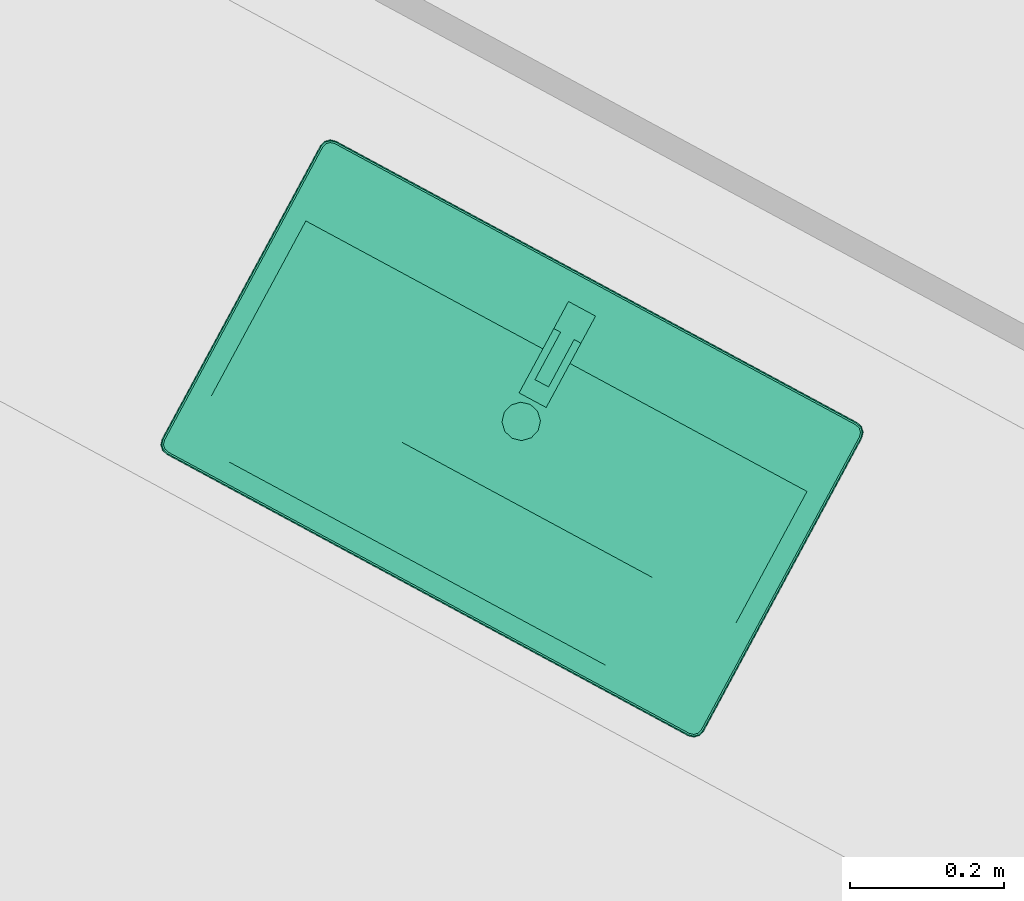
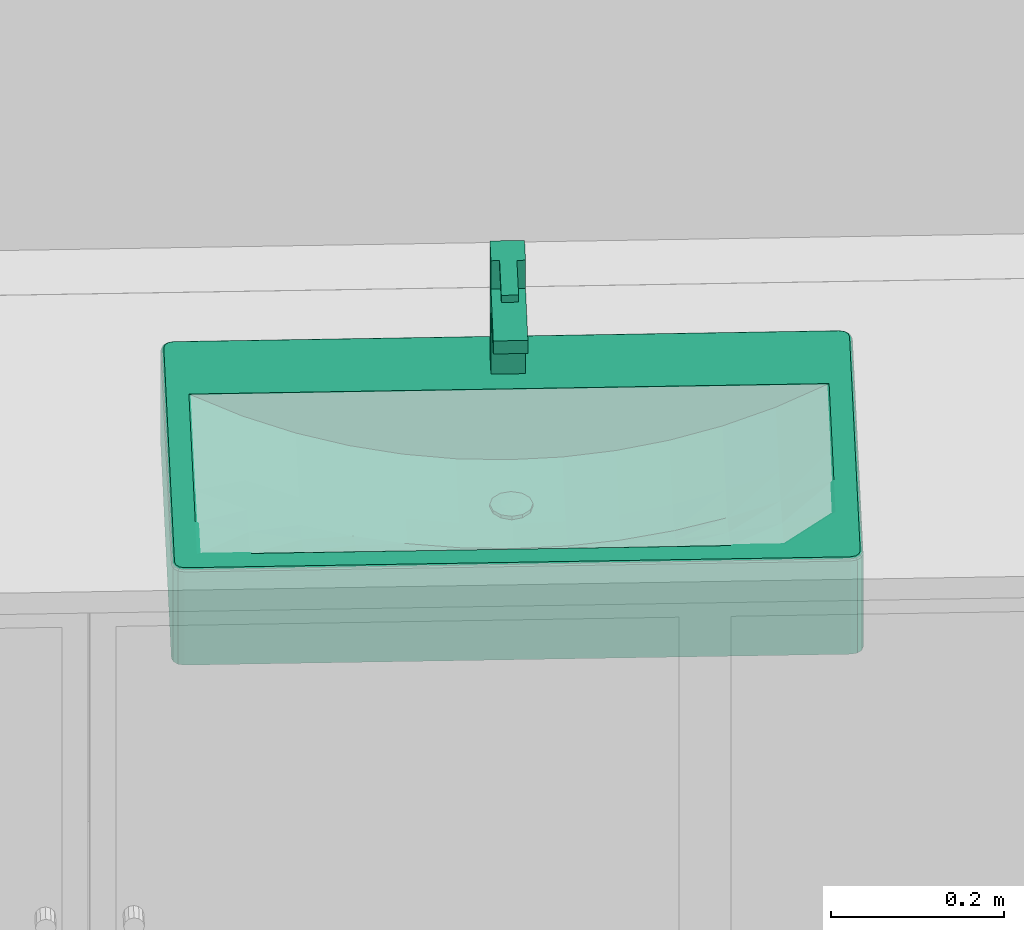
# One storey, part 19 of 48: 1 distribution element.
"""IFC2X3 building model written with IfcOpenShell, lengths in metres."""

from ifc_helpers import new_model, entity, si_unit, converted_unit, derived_unit, money_unit, direction, frame, origin_with_axes, place, context, subcontext, project, spatial, open_shell, faceted_brep, surface_model, type_object, element, save


model = new_model("IFC2X3")

# Units and contexts
model_context = context("Model", 3, precision=1e-05, world=origin_with_axes(), true_north=direction((0.0, 1.0)))
body_context = subcontext(model_context, "Body", "Model", "MODEL_VIEW")
ifc_project = project(units=[si_unit("LENGTHUNIT", "METRE"), si_unit("AREAUNIT", "SQUARE_METRE"), si_unit("VOLUMEUNIT", "CUBIC_METRE"), converted_unit("PLANEANGLEUNIT", "DEGREE", entity("IfcPlaneAngleMeasure", 0.0174532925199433), si_unit("PLANEANGLEUNIT", "RADIAN"), dimensions=[0, 0, 0, 0, 0, 0, 0]), money_unit("EUR"), converted_unit("TIMEUNIT", "Year", entity("IfcTimeMeasure", 31556926.0), si_unit("TIMEUNIT", "SECOND"), dimensions=[0, 0, 1, 0, 0, 0, 0]), si_unit("MASSUNIT", "GRAM", prefix="KILO"), si_unit("THERMODYNAMICTEMPERATUREUNIT", "DEGREE_CELSIUS"), si_unit("LUMINOUSINTENSITYUNIT", "LUMEN"), si_unit("ENERGYUNIT", "JOULE", prefix="MEGA"), derived_unit("THERMALCONDUCTANCEUNIT", [(si_unit("POWERUNIT", "WATT"), 1), (si_unit("LENGTHUNIT", "METRE"), -1), (si_unit("THERMODYNAMICTEMPERATUREUNIT", "KELVIN"), -1)]), derived_unit("SPECIFICHEATCAPACITYUNIT", [(si_unit("ENERGYUNIT", "JOULE"), 1), (si_unit("MASSUNIT", "GRAM", prefix="KILO"), -1), (si_unit("THERMODYNAMICTEMPERATUREUNIT", "KELVIN"), -1)]), derived_unit("MASSDENSITYUNIT", [(si_unit("MASSUNIT", "GRAM", prefix="KILO"), 1), (si_unit("VOLUMEUNIT", "CUBIC_METRE"), -1)])], contexts=[model_context])

# Site, building, storey
site_placement = place(None, frame((-3.949935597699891, 1.740105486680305, 0.0), z_axis=(0.0, 0.0, 1.0), x_axis=(0.8799804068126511, -0.475009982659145, 0.0)))
site = spatial("IfcSite", under=ifc_project, at=site_placement, Name="Gelände", CompositionType="ELEMENT")
building_placement = place(site_placement, origin_with_axes())
building = spatial("IfcBuilding", under=site, at=building_placement, Name="Gebäude", CompositionType="ELEMENT")
storey_placement = place(building_placement, frame((0.0, 0.0, 4.55), z_axis=(0.0, 0.0, 1.0), x_axis=(1.0, 0.0, 0.0)))
storey = spatial("IfcBuildingStorey", under=building, at=storey_placement, Name="Staffelgeschoss", CompositionType="ELEMENT", Elevation=4.55)

# Distribution element
distribution_element_type = type_object("IfcDistributionElementType", Name="Waschbecken 1 22")
distribution_element_placement = place(storey_placement, frame((20.58690113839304, 4.431900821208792, 0.0), z_axis=(0.0, 0.0, 1.0), x_axis=(1.0, 0.0, 0.0)))
element("IfcDistributionElement", 1, at=distribution_element_placement, inside=storey, type_object=distribution_element_type, Name="Objekt-0061", context=body_context, shape_type="SurfaceModel", body=[
    faceted_brep([(0.385, -0.4629798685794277, 0.715), (-0.385, -0.4629798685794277, 0.715), (-0.3925, -0.4609702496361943, 0.715), (-0.3979903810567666, -0.4554798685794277, 0.715), (-0.4, -0.4479798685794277, 0.715), (-0.4, -0.01500000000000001, 0.715), (-0.3979903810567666, -0.007500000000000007, 0.715), (-0.3925, -0.002009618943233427, 0.715), (-0.385, 0.0, 0.715), (0.385, 0.0, 0.715), (0.3925, -0.002009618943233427, 0.715), (0.3979903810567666, -0.007500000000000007, 0.715), (0.4, -0.01500000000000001, 0.715), (0.4, -0.4479798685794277, 0.715), (0.3979903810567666, -0.4554798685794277, 0.715), (0.3925, -0.4609702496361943, 0.715), (-0.37, -0.4329798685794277, 0.715), (0.37, -0.4329798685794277, 0.715), (0.37, -0.11, 0.715), (-0.37, -0.11, 0.715), (0.3849999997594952, -0.4629798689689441, 0.845), (-0.3849999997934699, -0.4629798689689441, 0.845), (-0.3925000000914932, -0.4609702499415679, 0.845), (-0.3979903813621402, -0.4554798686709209, 0.845), (-0.4000000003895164, -0.4479798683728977, 0.845), (-0.4000000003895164, -0.01499999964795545, 0.845), (-0.3979903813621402, -0.007500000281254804, 0.845), (-0.3925000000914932, -0.002009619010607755, 0.845), (-0.3849999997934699, 0.0, 0.845), (0.3849999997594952, 0.0, 0.845), (0.3925000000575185, -0.002009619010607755, 0.845), (0.3979903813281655, -0.007500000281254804, 0.845), (0.4000000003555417, -0.01499999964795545, 0.845), (0.4000000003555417, -0.4479798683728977, 0.845), (0.3979903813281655, -0.4554798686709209, 0.845), (0.3925000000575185, -0.4609702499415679, 0.845), (-0.37, -0.4329798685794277, 0.84999999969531), (0.37, -0.4329798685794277, 0.84999999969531), (0.37, -0.11, 0.84999999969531), (-0.37, -0.11, 0.84999999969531), (0.3849775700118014, -0.4628094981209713, 0.8462940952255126), (-0.3849775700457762, -0.4628094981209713, 0.8462940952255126), (-0.3924118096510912, -0.4608174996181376, 0.8462940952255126), (-0.3978376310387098, -0.4553916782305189, 0.8462940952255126), (-0.3998296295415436, -0.4479574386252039, 0.8462940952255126), (-0.3998296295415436, -0.01502242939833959, 0.8462940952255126), (-0.3978376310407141, -0.007588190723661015, 0.8462940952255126), (-0.3924118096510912, -0.002162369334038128, 0.8462940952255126), (-0.3849775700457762, -0.0001703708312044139, 0.8462940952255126), (0.3849775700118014, -0.0001703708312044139, 0.8462940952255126), (0.3924118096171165, -0.002162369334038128, 0.8462940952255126), (0.3978376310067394, -0.007588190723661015, 0.8462940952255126), (0.3998296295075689, -0.01502242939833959, 0.8462940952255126), (0.3998296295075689, -0.4479574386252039, 0.8462940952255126), (0.3978376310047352, -0.4553916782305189, 0.8462940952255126), (0.3924118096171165, -0.4608174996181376, 0.8462940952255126), (-0.3843417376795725, -0.004999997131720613, 0.84999999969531), (-0.3899118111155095, -0.006492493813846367, 0.84999999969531), (-0.3935075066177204, -0.01008818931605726, 0.84999999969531), (-0.3950000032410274, -0.01565826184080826, 0.84999999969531), (-0.3950000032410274, -0.4473216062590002, 0.84999999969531), (-0.3935075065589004, -0.4528916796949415, 0.84999999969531), (-0.3899118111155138, -0.4564873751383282, 0.84999999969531), (-0.3843417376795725, -0.4579798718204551, 0.84999999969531), (0.3843417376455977, -0.4579798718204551, 0.84999999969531), (0.3899118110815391, -0.4564873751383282, 0.84999999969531), (0.3935075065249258, -0.4528916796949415, 0.84999999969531), (0.3950000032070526, -0.4473216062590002, 0.84999999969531), (0.3950000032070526, -0.01565826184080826, 0.84999999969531), (0.3935075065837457, -0.01008818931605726, 0.84999999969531), (0.3899118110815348, -0.006492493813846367, 0.84999999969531), (0.3843417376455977, -0.004999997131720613, 0.84999999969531), (0.3848071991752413, -0.4615154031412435, 0.8485355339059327), (-0.384807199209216, -0.4615154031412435, 0.8485355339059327), (-0.3917419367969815, -0.4596572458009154, 0.8485355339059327), (-0.3966773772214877, -0.4547218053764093, 0.8485355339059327), (-0.3985355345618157, -0.4477870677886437, 0.8485355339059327), (-0.3985355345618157, -0.01519280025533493, 0.8485355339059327), (-0.3966773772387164, -0.00825806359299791, 0.8485355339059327), (-0.3917419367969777, -0.003322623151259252, 0.8485355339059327), (-0.384807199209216, -0.001464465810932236, 0.8485355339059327), (0.3848071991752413, -0.001464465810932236, 0.8485355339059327), (0.391741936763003, -0.003322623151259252, 0.8485355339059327), (0.3966773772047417, -0.00825806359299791, 0.8485355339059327), (0.398535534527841, -0.01519280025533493, 0.8485355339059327), (0.398535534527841, -0.4477870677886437, 0.8485355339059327), (0.396677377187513, -0.4547218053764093, 0.8485355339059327), (0.3917419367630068, -0.4596572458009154, 0.8485355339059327), (-0.3905816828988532, -0.005332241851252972, 0.8498296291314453), (-0.3845121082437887, -0.003705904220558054, 0.8498296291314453), (-0.3946677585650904, -0.009418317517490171, 0.8498296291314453), (-0.3962940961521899, -0.01548789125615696, 0.8498296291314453), (-0.3962940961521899, -0.4474919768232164, 0.8498296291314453), (-0.3946677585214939, -0.453561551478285, 0.8498296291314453), (-0.3905816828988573, -0.4576476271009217, 0.8498296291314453), (-0.3845121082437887, -0.4592739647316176, 0.8498296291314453), (0.3845121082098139, -0.4592739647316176, 0.8498296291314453), (0.3905816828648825, -0.4576476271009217, 0.8498296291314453), (0.3946677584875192, -0.453561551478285, 0.8498296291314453), (0.3962940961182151, -0.4474919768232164, 0.8498296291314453), (0.3962940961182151, -0.01548789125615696, 0.8498296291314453), (0.3946677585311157, -0.009418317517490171, 0.8498296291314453), (0.3905816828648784, -0.005332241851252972, 0.8498296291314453), (0.3845121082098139, -0.003705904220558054, 0.8498296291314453)], [[[0, 1, 2, 3, 4, 5, 6, 7, 8, 9, 10, 11, 12, 13, 14, 15], [16, 17, 18, 19]], [[0, 20, 21, 1]], [[1, 21, 22, 2]], [[2, 22, 23, 3]], [[3, 23, 24, 4]], [[4, 24, 25, 5]], [[5, 25, 26, 6]], [[6, 26, 27, 7]], [[7, 27, 28, 8]], [[8, 28, 29, 9]], [[9, 29, 30, 10]], [[10, 30, 31, 11]], [[11, 31, 32, 12]], [[12, 32, 33, 13]], [[13, 33, 34, 14]], [[14, 34, 35, 15]], [[15, 35, 20, 0]], [[36, 37, 17, 16]], [[37, 38, 18, 17]], [[38, 39, 19, 18]], [[39, 36, 16, 19]], [[20, 40, 41, 21]], [[21, 41, 42, 22]], [[22, 42, 43, 23]], [[23, 43, 44, 24]], [[24, 44, 45, 25]], [[25, 45, 46, 26]], [[26, 46, 47, 27]], [[27, 47, 48, 28]], [[28, 48, 49, 29]], [[29, 49, 50, 30]], [[30, 50, 51, 31]], [[31, 51, 52, 32]], [[32, 52, 53, 33]], [[33, 53, 54, 34]], [[34, 54, 55, 35]], [[35, 55, 40, 20]], [[56, 57, 58, 59, 60, 61, 62, 63, 64, 65, 66, 67, 68, 69, 70, 71], [36, 39, 38, 37]], [[40, 72, 73, 41]], [[41, 73, 74, 42]], [[42, 74, 75, 43]], [[43, 75, 76, 44]], [[44, 76, 77, 45]], [[45, 77, 78, 46]], [[46, 78, 79, 47]], [[47, 79, 80, 48]], [[48, 80, 81, 49]], [[49, 81, 82, 50]], [[50, 82, 83, 51]], [[51, 83, 84, 52]], [[52, 84, 85, 53]], [[53, 85, 86, 54]], [[54, 86, 87, 55]], [[55, 87, 72, 40]], [[88, 57, 56, 89]], [[90, 58, 57, 88]], [[91, 59, 58, 90]], [[92, 60, 59, 91]], [[93, 61, 60, 92]], [[94, 62, 61, 93]], [[95, 63, 62, 94]], [[96, 64, 63, 95]], [[97, 65, 64, 96]], [[98, 66, 65, 97]], [[99, 67, 66, 98]], [[100, 68, 67, 99]], [[101, 69, 68, 100]], [[102, 70, 69, 101]], [[103, 71, 70, 102]], [[89, 56, 71, 103]], [[72, 96, 95, 73]], [[73, 95, 94, 74]], [[74, 94, 93, 75]], [[75, 93, 92, 76]], [[76, 92, 91, 77]], [[77, 91, 90, 78]], [[78, 90, 88, 79]], [[79, 88, 89, 80]], [[80, 89, 103, 81]], [[81, 103, 102, 82]], [[82, 102, 101, 83]], [[83, 101, 100, 84]], [[84, 100, 99, 85]], [[85, 99, 98, 86]], [[86, 98, 97, 87]], [[87, 97, 96, 72]]]),
    faceted_brep([(-0.37, -0.4329798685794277, 0.715), (-0.37, -0.11, 0.715), (0.37, -0.11, 0.715), (0.37, -0.4329798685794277, 0.715), (0.01249999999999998, -0.2279082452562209, 0.715), (0.02165063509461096, -0.21875761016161, 0.715), (0.025, -0.20625761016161, 0.715), (0.02165063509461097, -0.1937576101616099, 0.715), (0.01250000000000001, -0.184606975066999, 0.715), (0.0, -0.18125761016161, 0.715), (-0.01249999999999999, -0.184606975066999, 0.715), (-0.02165063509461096, -0.1937576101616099, 0.715), (-0.025, -0.2062576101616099, 0.715), (-0.02165063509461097, -0.2187576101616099, 0.715), (-0.01250000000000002, -0.2279082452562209, 0.715), (0.0, -0.2312576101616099, 0.715), (-0.37, -0.3037879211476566, 0.85), (-0.37, -0.2391919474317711, 0.85), (-0.37, -0.1745959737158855, 0.85), (-0.37, -0.11, 0.85), (-0.37, -0.4329798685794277, 0.85), (-0.37, -0.3683838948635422, 0.85), (0.1850000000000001, -0.11, 0.7736798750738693), (0.2466666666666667, -0.11, 0.7926576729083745), (0.3083333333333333, -0.11, 0.8178510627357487), (0.37, -0.11, 0.8499999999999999), (-0.3083333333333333, -0.11, 0.8178510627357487), (-0.2466666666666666, -0.11, 0.7926576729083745), (-0.185, -0.11, 0.7736798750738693), (-0.1233333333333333, -0.11, 0.7604287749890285), (-0.06166666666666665, -0.11, 0.7525932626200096), (0.0, -0.11, 0.75), (0.0616666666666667, -0.11, 0.7525932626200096), (0.1233333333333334, -0.11, 0.7604287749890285), (0.37, -0.2391919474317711, 0.8499999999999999), (0.37, -0.3037879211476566, 0.8499999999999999), (0.37, -0.3683838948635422, 0.85), (0.37, -0.4329798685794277, 0.85), (0.37, -0.1745959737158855, 0.8499999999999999), (-0.185, -0.4329798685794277, 0.85), (-0.2466666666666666, -0.4329798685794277, 0.85), (-0.3083333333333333, -0.4329798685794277, 0.85), (0.3083333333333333, -0.4329798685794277, 0.85), (0.2466666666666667, -0.4329798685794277, 0.85), (0.1850000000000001, -0.4329798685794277, 0.85), (0.1233333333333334, -0.4329798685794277, 0.85), (0.0616666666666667, -0.4329798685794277, 0.85), (0.0, -0.4329798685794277, 0.85), (-0.06166666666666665, -0.4329798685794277, 0.85), (-0.1233333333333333, -0.4329798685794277, 0.85), (0.01249999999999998, -0.2279082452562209, 0.7505256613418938), (0.02165063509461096, -0.21875761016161, 0.7509104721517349), (0.025, -0.20625761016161, 0.7510513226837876), (0.02165063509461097, -0.1937576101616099, 0.7509104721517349), (0.01250000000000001, -0.184606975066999, 0.7505256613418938), (0.0, -0.18125761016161, 0.75), (-0.01249999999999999, -0.184606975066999, 0.7505256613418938), (-0.02165063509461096, -0.1937576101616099, 0.7509104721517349), (-0.025, -0.2062576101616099, 0.7510513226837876), (-0.02165063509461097, -0.2187576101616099, 0.7509104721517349), (-0.01250000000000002, -0.2279082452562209, 0.7505256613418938), (0.0, -0.2312576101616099, 0.75), (-0.3083333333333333, -0.2391919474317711, 0.8178510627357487), (-0.3083333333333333, -0.1745959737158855, 0.8178510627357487), (-0.3083333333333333, -0.3683838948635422, 0.8353632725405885), (-0.3083333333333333, -0.3037879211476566, 0.8214477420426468), (0.2466666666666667, -0.1745959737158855, 0.7926576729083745), (0.1850000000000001, -0.1745959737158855, 0.7736798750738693), (0.3083333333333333, -0.1745959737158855, 0.8178510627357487), (-0.2466666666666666, -0.1745959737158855, 0.7926576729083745), (-0.185, -0.1745959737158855, 0.7736798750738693), (-0.1233333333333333, -0.1745959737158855, 0.7604287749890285), (-0.06166666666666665, -0.1745959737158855, 0.7525932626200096), (0.0, -0.1745959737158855, 0.75), (0.0616666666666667, -0.1745959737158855, 0.7525932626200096), (0.1233333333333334, -0.1745959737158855, 0.7604287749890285), (0.3083333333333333, -0.3037879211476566, 0.8214477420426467), (0.3083333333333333, -0.3683838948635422, 0.8353632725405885), (0.3083333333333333, -0.2391919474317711, 0.8178510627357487), (-0.185, -0.3683838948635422, 0.814335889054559), (-0.2466666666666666, -0.3683838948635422, 0.8234977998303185), (0.2466666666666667, -0.3683838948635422, 0.8234977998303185), (0.1850000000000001, -0.3683838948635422, 0.814335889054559), (0.1233333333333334, -0.3683838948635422, 0.8078267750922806), (0.0616666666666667, -0.3683838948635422, 0.8039351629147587), (0.0, -0.3683838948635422, 0.8026402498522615), (-0.06166666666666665, -0.3683838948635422, 0.8039351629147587), (-0.1233333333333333, -0.3683838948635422, 0.8078267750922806), (0.0, -0.2391919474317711, 0.75), (0.0616666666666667, -0.2391919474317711, 0.7525932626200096), (-0.06166666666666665, -0.2391919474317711, 0.7525932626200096), (-0.2466666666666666, -0.2391919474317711, 0.7926576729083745), (0.2466666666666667, -0.2391919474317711, 0.7926576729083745), (0.1850000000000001, -0.2391919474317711, 0.7736798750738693), (-0.185, -0.2391919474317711, 0.7736798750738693), (-0.1233333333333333, -0.2391919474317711, 0.7604287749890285), (0.1233333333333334, -0.2391919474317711, 0.7604287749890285), (0.0, -0.3037879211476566, 0.7603000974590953), (-0.06166666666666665, -0.3037879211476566, 0.7626568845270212), (-0.2466666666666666, -0.3037879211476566, 0.7988745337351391), (0.1850000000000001, -0.3037879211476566, 0.7817653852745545), (0.2466666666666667, -0.3037879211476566, 0.798874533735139), (-0.185, -0.3037879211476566, 0.7817653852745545), (-0.1233333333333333, -0.3037879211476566, 0.7697689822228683), (0.0616666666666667, -0.3037879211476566, 0.7626568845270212), (0.1233333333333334, -0.3037879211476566, 0.7697689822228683)], [[[0, 1, 2, 3], [4, 5, 6, 7, 8, 9, 10, 11, 12, 13, 14, 15]], [[16, 17, 18, 19, 1, 0, 20, 21]], [[22, 23, 24, 25, 2, 1, 19, 26, 27, 28, 29, 30, 31, 32, 33]], [[34, 35, 36, 37, 3, 2, 25, 38]], [[39, 40, 41, 20, 0, 3, 37, 42, 43, 44, 45, 46, 47, 48, 49]], [[50, 51, 5, 4]], [[51, 52, 6, 5]], [[52, 53, 7, 6]], [[53, 54, 8, 7]], [[54, 55, 9, 8]], [[55, 56, 10, 9]], [[56, 57, 11, 10]], [[57, 58, 12, 11]], [[58, 59, 13, 12]], [[59, 60, 14, 13]], [[60, 61, 15, 14]], [[61, 50, 4, 15]], [[16, 62, 17]], [[62, 63, 18, 17]], [[63, 26, 19, 18]], [[20, 64, 21]], [[21, 65, 16]], [[66, 23, 22, 67]], [[68, 24, 23, 66]], [[38, 25, 24, 68]], [[69, 27, 26, 63]], [[70, 28, 27, 69]], [[71, 29, 28, 70]], [[72, 30, 29, 71]], [[73, 31, 30, 72]], [[74, 32, 31, 73]], [[75, 33, 32, 74]], [[67, 22, 33, 75]], [[76, 35, 34]], [[77, 36, 35]], [[42, 37, 36]], [[34, 38, 68, 78]], [[40, 39, 79]], [[41, 40, 80]], [[20, 41, 64]], [[43, 42, 77]], [[44, 43, 81]], [[45, 44, 82]], [[46, 45, 83]], [[47, 46, 84]], [[48, 47, 85]], [[49, 48, 86]], [[39, 49, 87]], [[54, 53, 52, 51, 50, 61, 88, 89, 74, 73, 55]], [[56, 55, 73, 72, 90, 88, 61, 60, 59, 58, 57]], [[16, 65, 62]], [[91, 69, 63, 62]], [[21, 64, 65]], [[92, 66, 67, 93]], [[78, 68, 66, 92]], [[94, 70, 69, 91]], [[95, 71, 70, 94]], [[90, 72, 71, 95]], [[96, 75, 74, 89]], [[93, 67, 75, 96]], [[77, 35, 76]], [[76, 34, 78]], [[42, 36, 77]], [[39, 87, 79]], [[40, 79, 80]], [[41, 80, 64]], [[43, 77, 81]], [[44, 81, 82]], [[45, 82, 83]], [[46, 83, 84]], [[47, 84, 85]], [[48, 85, 86]], [[49, 86, 87]], [[97, 89, 88]], [[98, 88, 90]], [[65, 91, 62]], [[64, 99, 65]], [[100, 92, 93]], [[101, 78, 92]], [[99, 94, 91]], [[102, 95, 94]], [[103, 90, 95]], [[104, 96, 89]], [[105, 93, 96]], [[81, 77, 76]], [[101, 76, 78]], [[79, 87, 103]], [[80, 79, 102]], [[64, 80, 99]], [[82, 81, 101]], [[83, 82, 100]], [[84, 83, 105]], [[85, 84, 104]], [[86, 85, 97]], [[87, 86, 98]], [[97, 104, 89]], [[98, 97, 88]], [[103, 98, 90]], [[65, 99, 91]], [[100, 101, 92]], [[105, 100, 93]], [[99, 102, 94]], [[102, 103, 95]], [[104, 105, 96]], [[81, 76, 101]], [[87, 98, 103]], [[79, 103, 102]], [[80, 102, 99]], [[82, 101, 100]], [[83, 100, 105]], [[84, 105, 104]], [[85, 104, 97]], [[86, 97, 98]]]),
    faceted_brep([(0.02165063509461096, -0.21875761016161, 0.75), (0.01249999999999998, -0.2279082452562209, 0.75), (0.0, -0.2312576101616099, 0.75), (-0.01250000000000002, -0.2279082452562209, 0.75), (-0.02165063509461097, -0.2187576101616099, 0.75), (-0.025, -0.2062576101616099, 0.75), (-0.02165063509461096, -0.1937576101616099, 0.75), (-0.01249999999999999, -0.184606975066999, 0.75), (0.0, -0.18125761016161, 0.75), (0.01250000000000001, -0.184606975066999, 0.75), (0.02165063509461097, -0.1937576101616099, 0.75), (0.025, -0.20625761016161, 0.75), (0.02165063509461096, -0.21875761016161, 0.755), (0.01249999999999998, -0.2279082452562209, 0.755), (0.0, -0.2312576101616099, 0.755), (-0.01250000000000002, -0.2279082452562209, 0.755), (-0.02165063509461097, -0.2187576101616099, 0.755), (-0.025, -0.2062576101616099, 0.755), (-0.02165063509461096, -0.1937576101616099, 0.755), (-0.01249999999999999, -0.184606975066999, 0.755), (0.0, -0.18125761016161, 0.755), (0.01250000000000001, -0.184606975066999, 0.755), (0.02165063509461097, -0.1937576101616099, 0.755), (0.025, -0.20625761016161, 0.755)], [[[0, 1, 2, 3, 4, 5, 6, 7, 8, 9, 10, 11]], [[1, 0, 12, 13]], [[2, 1, 13, 14]], [[3, 2, 14, 15]], [[4, 3, 15, 16]], [[5, 4, 16, 17]], [[6, 5, 17, 18]], [[7, 6, 18, 19]], [[8, 7, 19, 20]], [[9, 8, 20, 21]], [[10, 9, 21, 22]], [[11, 10, 22, 23]], [[0, 11, 23, 12]], [[12, 23, 22, 21, 20, 19, 18, 17, 16, 15, 14, 13]]]),
    surface_model("IfcShellBasedSurfaceModel", [(0.0, -0.20625761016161, 0.757), (0.0, -0.19363570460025, 0.7564975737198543), (-0.006310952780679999, -0.1953267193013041, 0.7564975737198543), (0.006310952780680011, -0.1953267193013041, 0.7564975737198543), (0.0, -0.18125761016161, 0.755), (-0.0125, -0.184606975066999, 0.755), (-0.01093089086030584, -0.19994665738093, 0.7564975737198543), (0.01093089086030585, -0.19994665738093, 0.7564975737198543), (0.01250000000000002, -0.184606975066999, 0.755), (-0.02165063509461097, -0.1937576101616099, 0.755), (-0.01262190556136, -0.20625761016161, 0.7564975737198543), (0.01262190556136, -0.20625761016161, 0.7564975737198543), (0.02165063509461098, -0.19375761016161, 0.755), (-0.025, -0.20625761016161, 0.755), (-0.01093089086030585, -0.21256856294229, 0.7564975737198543), (0.01093089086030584, -0.21256856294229, 0.7564975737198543), (0.025, -0.20625761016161, 0.755), (-0.02165063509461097, -0.2187576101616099, 0.755), (-0.006310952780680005, -0.2171885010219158, 0.7564975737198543), (0.006310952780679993, -0.2171885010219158, 0.7564975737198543), (0.02165063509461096, -0.21875761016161, 0.755), (-0.01250000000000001, -0.2279082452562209, 0.755), (0.0, -0.21887951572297, 0.7564975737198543), (0.01249999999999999, -0.2279082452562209, 0.755), (0.0, -0.2312576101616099, 0.755)], [open_shell([[[0, 1, 2]], [[0, 3, 1]], [[2, 1, 4, 5]], [[0, 2, 6]], [[0, 7, 3]], [[1, 3, 8, 4]], [[6, 2, 5, 9]], [[0, 6, 10]], [[0, 11, 7]], [[3, 7, 12, 8]], [[10, 6, 9, 13]], [[0, 10, 14]], [[0, 15, 11]], [[7, 11, 16, 12]], [[14, 10, 13, 17]], [[0, 14, 18]], [[0, 19, 15]], [[11, 15, 20, 16]], [[18, 14, 17, 21]], [[0, 18, 22]], [[0, 22, 19]], [[15, 19, 23, 20]], [[22, 18, 21, 24]], [[19, 22, 24, 23]]])]),
    faceted_brep([(0.02, -0.03999999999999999, 0.85), (0.02, -0.08, 0.85), (-0.02, -0.08, 0.85), (-0.02, -0.04, 0.85), (0.02000000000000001, -0.03999999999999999, 0.97), (0.02000000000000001, -0.08, 0.97), (0.02000000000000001, -0.175, 0.9633569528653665), (0.02000000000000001, -0.175, 0.945), (0.02000000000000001, -0.08, 0.945), (-0.01999999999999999, -0.08, 0.945), (-0.01999999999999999, -0.175, 0.945), (-0.01999999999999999, -0.175, 0.9633569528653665), (-0.01999999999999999, -0.08, 0.97), (-0.01999999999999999, -0.04, 0.97)], [[[0, 1, 2, 3]], [[0, 4, 5, 6, 7, 8, 1]], [[1, 8, 9, 2]], [[3, 2, 9, 10, 11, 12, 13]], [[4, 0, 3, 13]], [[5, 4, 13, 12]], [[6, 5, 12, 11]], [[7, 6, 11, 10]], [[8, 7, 10, 9]]]),
    faceted_brep([(0.02, -0.03999999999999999, 0.97), (0.02, -0.08, 0.97), (-0.02, -0.08, 0.97), (-0.02, -0.04, 0.97), (0.02, -0.03999999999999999, 1.01), (0.02, -0.08, 1.01), (-0.01999999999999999, -0.08, 1.01), (-0.02, -0.04, 1.01)], [[[0, 1, 2, 3]], [[0, 4, 5, 1]], [[1, 5, 6, 2]], [[3, 2, 6, 7]], [[4, 0, 3, 7]], [[5, 4, 7, 6]]]),
    faceted_brep([(0.01, -0.08, 1.0), (0.01000000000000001, -0.15, 1.0), (-0.009999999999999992, -0.15, 1.0), (-0.009999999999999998, -0.08, 1.0), (0.01, -0.08, 1.01), (0.01000000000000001, -0.15, 1.01), (-0.009999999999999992, -0.15, 1.01), (-0.009999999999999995, -0.08, 1.01)], [[[0, 1, 2, 3]], [[0, 4, 5, 1]], [[1, 5, 6, 2]], [[3, 2, 6, 7]], [[4, 0, 3, 7]], [[5, 4, 7, 6]]]),
])

save(model, "model.ifc")
